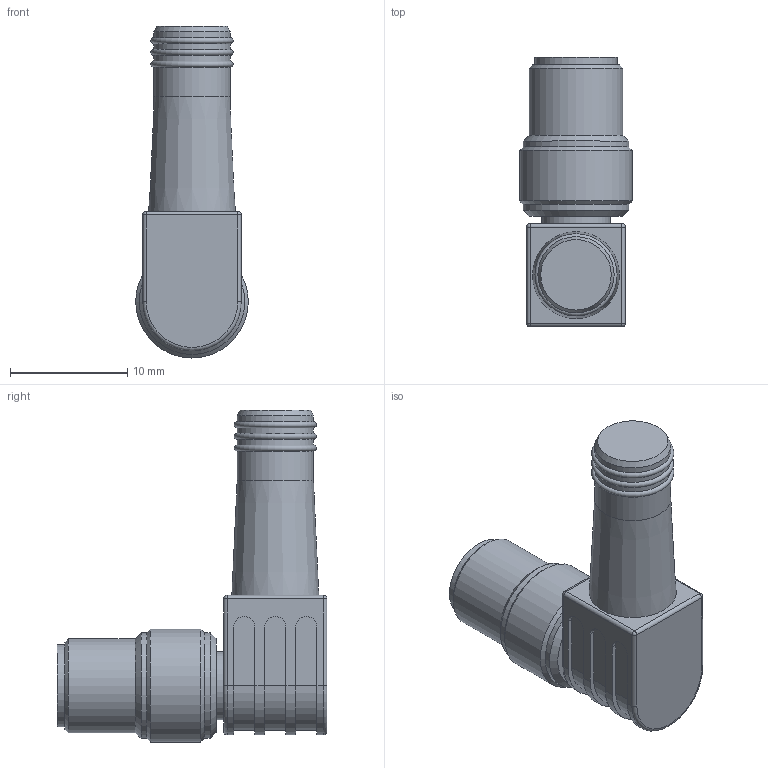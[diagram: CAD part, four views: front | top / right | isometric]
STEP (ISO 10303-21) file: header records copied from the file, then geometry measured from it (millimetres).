
FILE_DESCRIPTION(/* description */ (''),/* implementation_level */ '2;1');
FILE_NAME(/* name */ 'L:\CAD Inventor\Workspace\Catalogs\CATALOG-TURCK CONNECTORS\PSW_M.stp',/* time_stamp */ '2021-08-24T14:01:34-05:00',/* author */ ('RSwans'),/* organization */ (''),/* preprocessor_version */ 'ST-DEVELOPER v16.5',/* originating_system */ 'Autodesk Inventor 2017',/* authorisation */ '');
FILE_SCHEMA (('AUTOMOTIVE_DESIGN { 1 0 10303 214 3 1 1 }'));
Length unit declared in the file: millimetre
Products named in the file (1): Part3
Bounding box: 9.6 x 23 x 28.3 mm (x, y, z)
Volume: 1955.2 mm3; surface area: 2051.3 mm2
Topology: 1 solids, 5 shells, 118 faces, 252 edges, 152 vertices
Faces by surface type: cylinder 52, plane 37, cone 20, torus 5, sphere 4
Full cylindrical faces by diameter (mm): 0.6 x4, 1 x8, 1.6 x4, 5.76 x1, 5.8 x1, 6.1 x1, 6.26 x1, 6.32 x1, 6.5 x4, 6.8 x1, 7 x1, 8 x1, 9 x2, 9.6 x1
Entity records: 3217 total; most frequent: CARTESIAN_POINT 709, DIRECTION 524, ORIENTED_EDGE 368, AXIS2_PLACEMENT_3D 229, EDGE_LOOP 192, EDGE_CURVE 184, VERTEX_POINT 142, FACE_OUTER_BOUND 118
